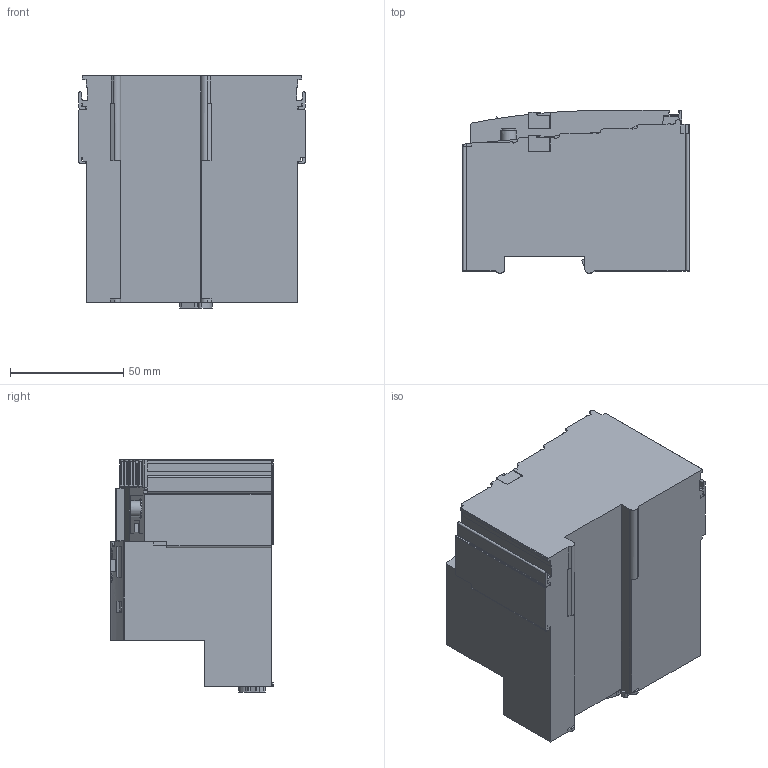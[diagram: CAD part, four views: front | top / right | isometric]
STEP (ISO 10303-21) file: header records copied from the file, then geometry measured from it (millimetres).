
FILE_DESCRIPTION( ( 'STEP AP214' ), ' ' );
FILE_NAME( 'p:/temp/worker_2252/6088_3564/app_40_02018013112081773960793192d056f_000000_00_00_000000/format_0/750-8207.stp', '2018-01-31T11:08:20', ( '' ), ( '' ), ' ', 'PARTsolutions', ' ' );
FILE_SCHEMA( ( 'AUTOMOTIVE_DESIGN { 1 0 10303 214 1 1 1 1 }' ) );
Length unit declared in the file: millimetre
Products named in the file (1): _750-8207
Bounding box: 100 x 71.9 x 102.5 mm (x, y, z)
Volume: 525452.1 mm3; surface area: 53122.9 mm2
Topology: 1 solids, 1 shells, 644 faces, 1759 edges, 1161 vertices
Faces by surface type: plane 461, cylinder 165, cone 16, sphere 2
Full cylindrical faces by diameter (mm): 2.85 x1, 3.55 x1, 5.45 x1, 6 x1, 7 x1, 9 x1
Entity records: 25554 total; most frequent: CARTESIAN_POINT 3774, ORIENTED_EDGE 3500, DIRECTION 3400, EDGE_CURVE 1750, LINE 1332, VECTOR 1332, VERTEX_POINT 1158, AXIS2_PLACEMENT_3D 1034
